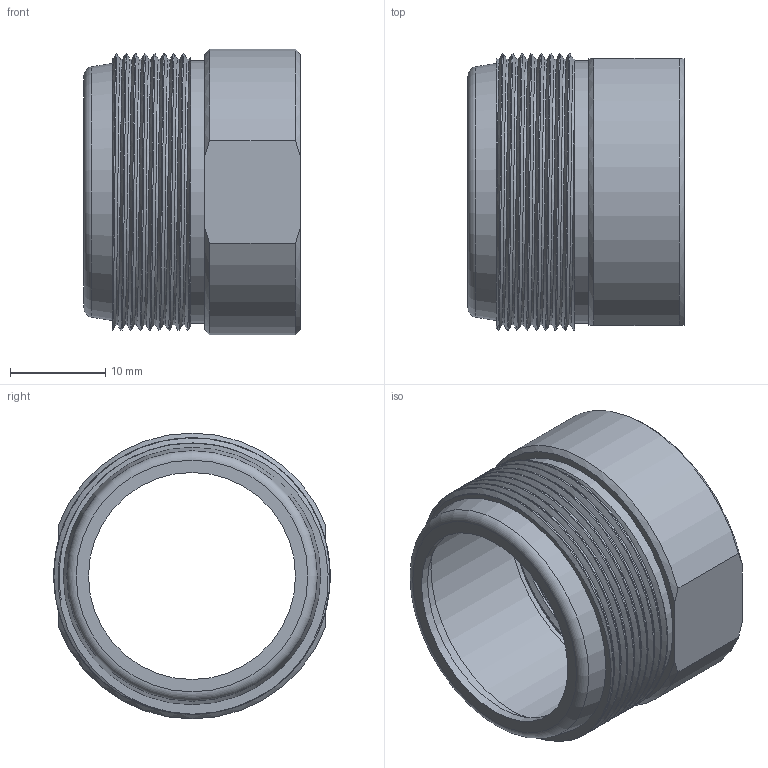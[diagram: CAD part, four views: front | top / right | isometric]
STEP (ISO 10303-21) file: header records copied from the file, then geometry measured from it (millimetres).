
FILE_DESCRIPTION (( 'STEP AP203' ), '1' );
FILE_NAME ('SH.IR0.A-»¤Ì×L-20250519.STEP', '2025-05-21T06:30:44', ( '' ), ( '' ), 'SwSTEP 2.0', 'SolidWorks 2023', '' );
FILE_SCHEMA (( 'CONFIG_CONTROL_DESIGN' ));
Length unit declared in the file: millimetre
Products named in the file (1): SH.IR0.A-护套L-20250519
Bounding box: 22.7 x 29 x 30 mm (x, y, z)
Volume: 3320.3 mm3; surface area: 5296.3 mm2
Topology: 1 solids, 1 shells, 34 faces, 72 edges, 48 vertices
Faces by surface type: plane 12, cylinder 10, bspline 6, cone 5, torus 1
Full cylindrical faces by diameter (mm): 21.72 x1, 24.3 x1, 25.1 x1, 26.5 x1, 27 x1, 27.5 x1
Entity records: 3681 total; most frequent: CARTESIAN_POINT 2959, ORIENTED_EDGE 126, DIRECTION 120, EDGE_CURVE 63, AXIS2_PLACEMENT_3D 56, EDGE_LOOP 52, VERTEX_POINT 47, FACE_OUTER_BOUND 41
